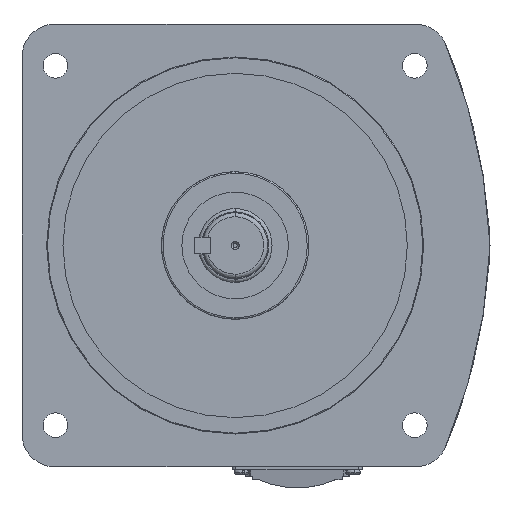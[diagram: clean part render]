
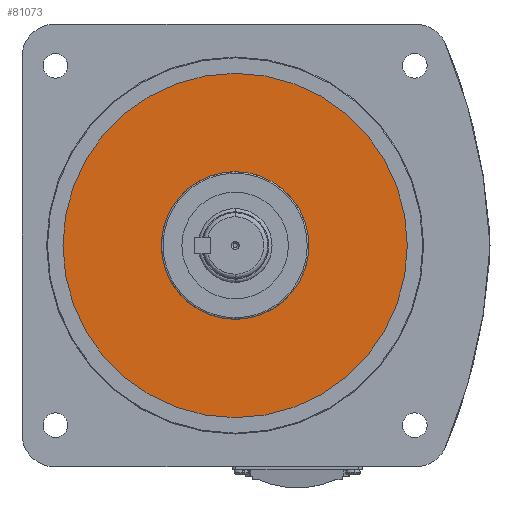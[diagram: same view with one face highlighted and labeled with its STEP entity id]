
A CAD part, left-side view. The second image highlights one B-rep face of the part: STEP entity #81073.
In plain terms, the highlighted planar face has unit normal (-1, 0, 0).
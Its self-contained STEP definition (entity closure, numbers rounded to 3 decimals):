
#2245 = DIRECTION ( 'NONE',  ( 0., 0., -1. ) ) ;
#6777 = AXIS2_PLACEMENT_3D ( 'NONE', #49223, #41164, #99577 ) ;
#11267 = CARTESIAN_POINT ( 'NONE',  ( 0., 0., 105. ) ) ;
#20642 = VERTEX_POINT ( 'NONE', #106458 ) ;
#21878 = CARTESIAN_POINT ( 'NONE',  ( 0., 0., 0. ) ) ;
#23760 = DIRECTION ( 'NONE',  ( -1., 0., 0. ) ) ;
#24247 = EDGE_CURVE ( 'NONE', #43346, #55601, #26925, .T. ) ;
#24540 = FACE_OUTER_BOUND ( 'NONE', #29170, .T. ) ;
#26633 = CIRCLE ( 'NONE', #33321, 105. ) ;
#26925 = CIRCLE ( 'NONE', #29948, 105. ) ;
#28439 = CARTESIAN_POINT ( 'NONE',  ( 0., 0., -105. ) ) ;
#29170 = EDGE_LOOP ( 'NONE', ( #41876, #46454 ) ) ;
#29948 = AXIS2_PLACEMENT_3D ( 'NONE', #72864, #72594, #72482 ) ;
#30454 = DIRECTION ( 'NONE',  ( 0., 0., -1. ) ) ;
#31994 = AXIS2_PLACEMENT_3D ( 'NONE', #74137, #23760, #82525 ) ;
#33321 = AXIS2_PLACEMENT_3D ( 'NONE', #21878, #80691, #30454 ) ;
#41164 = DIRECTION ( 'NONE',  ( 1., 0., 0. ) ) ;
#41876 = ORIENTED_EDGE ( 'NONE', *, *, #24247, .T. ) ;
#43346 = VERTEX_POINT ( 'NONE', #28439 ) ;
#46454 = ORIENTED_EDGE ( 'NONE', *, *, #101759, .T. ) ;
#49223 = CARTESIAN_POINT ( 'NONE',  ( 0., 0., 0. ) ) ;
#52772 = DIRECTION ( 'NONE',  ( -1., 0., 0. ) ) ;
#54041 = CIRCLE ( 'NONE', #98234, 45. ) ;
#54529 = ORIENTED_EDGE ( 'NONE', *, *, #96420, .F. ) ;
#55601 = VERTEX_POINT ( 'NONE', #11267 ) ;
#66583 = ORIENTED_EDGE ( 'NONE', *, *, #103762, .F. ) ;
#71861 = FACE_BOUND ( 'NONE', #96768, .T. ) ;
#72482 = DIRECTION ( 'NONE',  ( 0., 0., -1. ) ) ;
#72594 = DIRECTION ( 'NONE',  ( -1., 0., 0. ) ) ;
#72864 = CARTESIAN_POINT ( 'NONE',  ( 0., 0., 0. ) ) ;
#74137 = CARTESIAN_POINT ( 'NONE',  ( 0., 0., 0. ) ) ;
#80691 = DIRECTION ( 'NONE',  ( -1., 0., 0. ) ) ;
#81073 = ADVANCED_FACE ( 'NONE', ( #71861, #24540 ), #91195, .F. ) ;
#82525 = DIRECTION ( 'NONE',  ( 0., 0., -1. ) ) ;
#91195 = PLANE ( 'NONE',  #6777 ) ;
#95829 = CARTESIAN_POINT ( 'NONE',  ( 0., 0., 45. ) ) ;
#96420 = EDGE_CURVE ( 'NONE', #20642, #96566, #54041, .T. ) ;
#96566 = VERTEX_POINT ( 'NONE', #95829 ) ;
#96768 = EDGE_LOOP ( 'NONE', ( #54529, #66583 ) ) ;
#98234 = AXIS2_PLACEMENT_3D ( 'NONE', #102723, #52772, #2245 ) ;
#99577 = DIRECTION ( 'NONE',  ( 0., 0., -1. ) ) ;
#101759 = EDGE_CURVE ( 'NONE', #55601, #43346, #26633, .T. ) ;
#102723 = CARTESIAN_POINT ( 'NONE',  ( 0., 0., 0. ) ) ;
#103762 = EDGE_CURVE ( 'NONE', #96566, #20642, #107310, .T. ) ;
#106458 = CARTESIAN_POINT ( 'NONE',  ( 0., 0., -45. ) ) ;
#107310 = CIRCLE ( 'NONE', #31994, 45. ) ;
